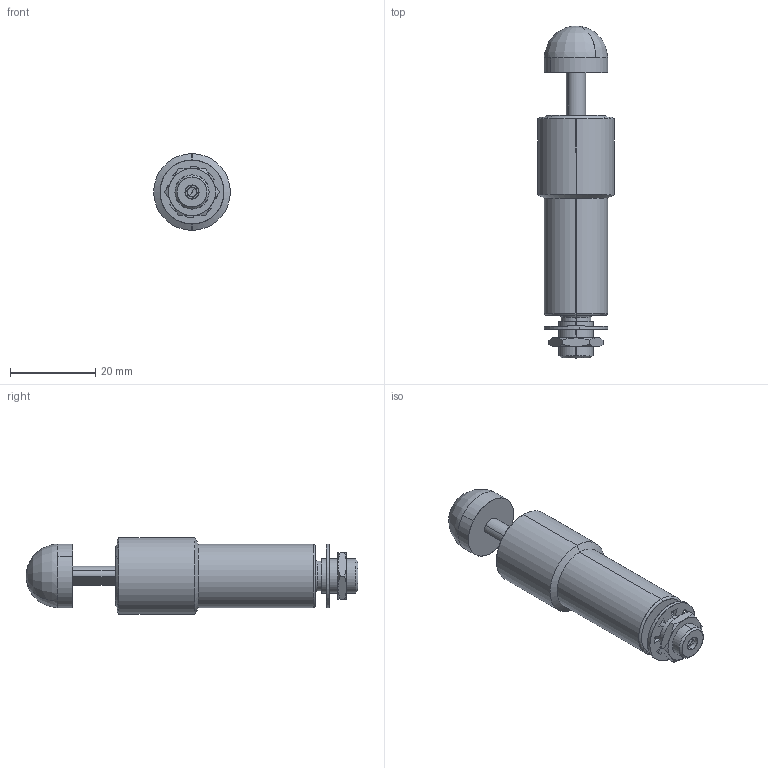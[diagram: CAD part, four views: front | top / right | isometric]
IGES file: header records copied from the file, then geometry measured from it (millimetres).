
Start section: SolidWorks IGES file using analytic representation for surfaces
Bounding box: 18 x 78 x 18 mm (x, y, z)
Surface area: 4736.3 mm2 (no closed solid volume)
Topology: 0 solids, 0 shells, 97 faces, 1086 edges, 1085 vertices
Faces by surface type: revolution 49, bspline 48
